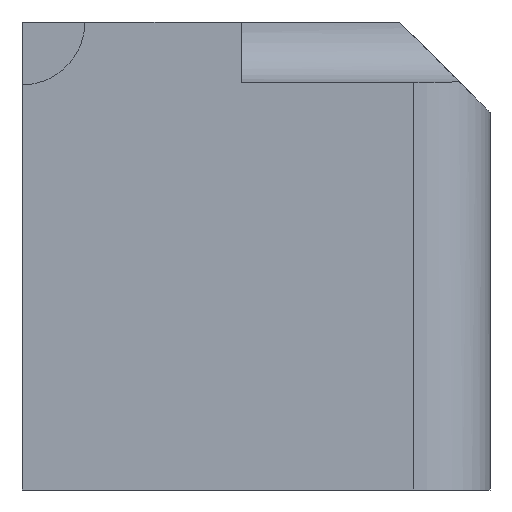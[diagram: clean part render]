
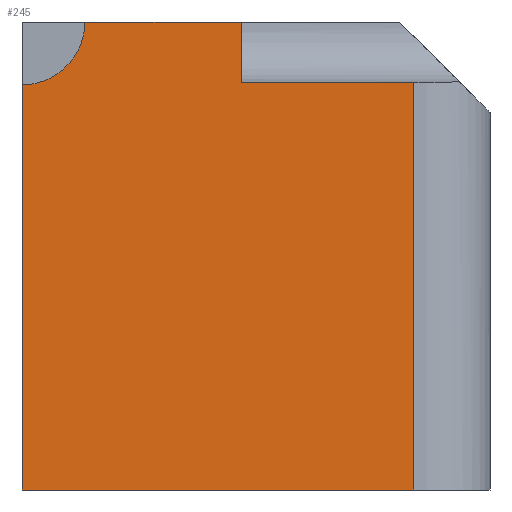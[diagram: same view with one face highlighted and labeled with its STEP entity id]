
A CAD part, front view. The second image highlights one B-rep face of the part: STEP entity #245.
In plain terms, the highlighted planar face has unit normal (0, -1, 0).
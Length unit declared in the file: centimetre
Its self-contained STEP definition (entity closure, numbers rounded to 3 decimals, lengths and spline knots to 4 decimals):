
#37 = ORIENTED_EDGE ( 'NONE', *, *, #107, .T. ) ;
#38 = ORIENTED_EDGE ( 'NONE', *, *, #1394, .T. ) ;
#54 = EDGE_LOOP ( 'NONE', ( #1089, #1315, #765, #1556, #38, #37, #1118 ) ) ;
#57 = VERTEX_POINT ( 'NONE', #828 ) ;
#92 = AXIS2_PLACEMENT_3D ( 'NONE', #546, #424, #1058 ) ;
#107 = EDGE_CURVE ( 'NONE', #1572, #461, #818, .T. ) ;
#162 = VERTEX_POINT ( 'NONE', #1359 ) ;
#209 = DIRECTION ( 'NONE',  ( -1., 0., 0. ) ) ;
#212 = CARTESIAN_POINT ( 'NONE',  ( 134.3953, 0., 1000. ) ) ;
#245 = ADVANCED_FACE ( 'NONE', ( #1025 ), #775, .F. ) ;
#271 = DIRECTION ( 'NONE',  ( 0., 0., 1. ) ) ;
#319 = EDGE_CURVE ( 'NONE', #162, #655, #469, .T. ) ;
#358 = EDGE_CURVE ( 'NONE', #57, #461, #1471, .T. ) ;
#373 = VERTEX_POINT ( 'NONE', #212 ) ;
#388 = VECTOR ( 'NONE', #1388, 100. ) ;
#424 = DIRECTION ( 'NONE',  ( 0., -1., 0. ) ) ;
#461 = VERTEX_POINT ( 'NONE', #1116 ) ;
#466 = CARTESIAN_POINT ( 'NONE',  ( 0., 0., 865.6047 ) ) ;
#469 = LINE ( 'NONE', #564, #587 ) ;
#497 = DIRECTION ( 'NONE',  ( 0., 0., -1. ) ) ;
#531 = VECTOR ( 'NONE', #209, 100. ) ;
#546 = CARTESIAN_POINT ( 'NONE',  ( 0., 0., 1000. ) ) ;
#564 = CARTESIAN_POINT ( 'NONE',  ( 0., 0., 0. ) ) ;
#587 = VECTOR ( 'NONE', #1069, 100. ) ;
#655 = VERTEX_POINT ( 'NONE', #974 ) ;
#665 = LINE ( 'NONE', #803, #1551 ) ;
#715 = VERTEX_POINT ( 'NONE', #466 ) ;
#765 = ORIENTED_EDGE ( 'NONE', *, *, #1212, .T. ) ;
#775 = PLANE ( 'NONE',  #827 ) ;
#785 = CIRCLE ( 'NONE', #92, 134.3953 ) ;
#793 = DIRECTION ( 'NONE',  ( 0., 1., 0. ) ) ;
#803 = CARTESIAN_POINT ( 'NONE',  ( 836.897, 0., 1000. ) ) ;
#818 = LINE ( 'NONE', #1334, #531 ) ;
#827 = AXIS2_PLACEMENT_3D ( 'NONE', #896, #793, #1419 ) ;
#828 = CARTESIAN_POINT ( 'NONE',  ( 468.2192, 0., 1000. ) ) ;
#896 = CARTESIAN_POINT ( 'NONE',  ( 0., 0., 1000. ) ) ;
#974 = CARTESIAN_POINT ( 'NONE',  ( 836.897, 0., 0. ) ) ;
#1006 = LINE ( 'NONE', #1026, #388 ) ;
#1025 = FACE_OUTER_BOUND ( 'NONE', #54, .T. ) ;
#1026 = CARTESIAN_POINT ( 'NONE',  ( 0., 0., 1000. ) ) ;
#1058 = DIRECTION ( 'NONE',  ( 0., 0., -1. ) ) ;
#1069 = DIRECTION ( 'NONE',  ( 1., 0., 0. ) ) ;
#1089 = ORIENTED_EDGE ( 'NONE', *, *, #1233, .F. ) ;
#1116 = CARTESIAN_POINT ( 'NONE',  ( 468.2192, 0., 869.7031 ) ) ;
#1118 = ORIENTED_EDGE ( 'NONE', *, *, #358, .F. ) ;
#1212 = EDGE_CURVE ( 'NONE', #715, #162, #1269, .T. ) ;
#1233 = EDGE_CURVE ( 'NONE', #373, #57, #1006, .T. ) ;
#1269 = LINE ( 'NONE', #1694, #1368 ) ;
#1315 = ORIENTED_EDGE ( 'NONE', *, *, #1481, .F. ) ;
#1334 = CARTESIAN_POINT ( 'NONE',  ( 468.2192, 0., 869.7031 ) ) ;
#1359 = CARTESIAN_POINT ( 'NONE',  ( 0., 0., 0. ) ) ;
#1368 = VECTOR ( 'NONE', #497, 100. ) ;
#1388 = DIRECTION ( 'NONE',  ( 1., 0., 0. ) ) ;
#1394 = EDGE_CURVE ( 'NONE', #655, #1572, #665, .T. ) ;
#1419 = DIRECTION ( 'NONE',  ( 0., 0., 1. ) ) ;
#1471 = LINE ( 'NONE', #1609, #1542 ) ;
#1481 = EDGE_CURVE ( 'NONE', #715, #373, #785, .T. ) ;
#1542 = VECTOR ( 'NONE', #1647, 100. ) ;
#1551 = VECTOR ( 'NONE', #271, 100. ) ;
#1556 = ORIENTED_EDGE ( 'NONE', *, *, #319, .T. ) ;
#1572 = VERTEX_POINT ( 'NONE', #1629 ) ;
#1609 = CARTESIAN_POINT ( 'NONE',  ( 468.2192, 0., 1000. ) ) ;
#1629 = CARTESIAN_POINT ( 'NONE',  ( 836.897, 0., 869.7031 ) ) ;
#1647 = DIRECTION ( 'NONE',  ( 0., 0., -1. ) ) ;
#1694 = CARTESIAN_POINT ( 'NONE',  ( 0., 0., 1000. ) ) ;
